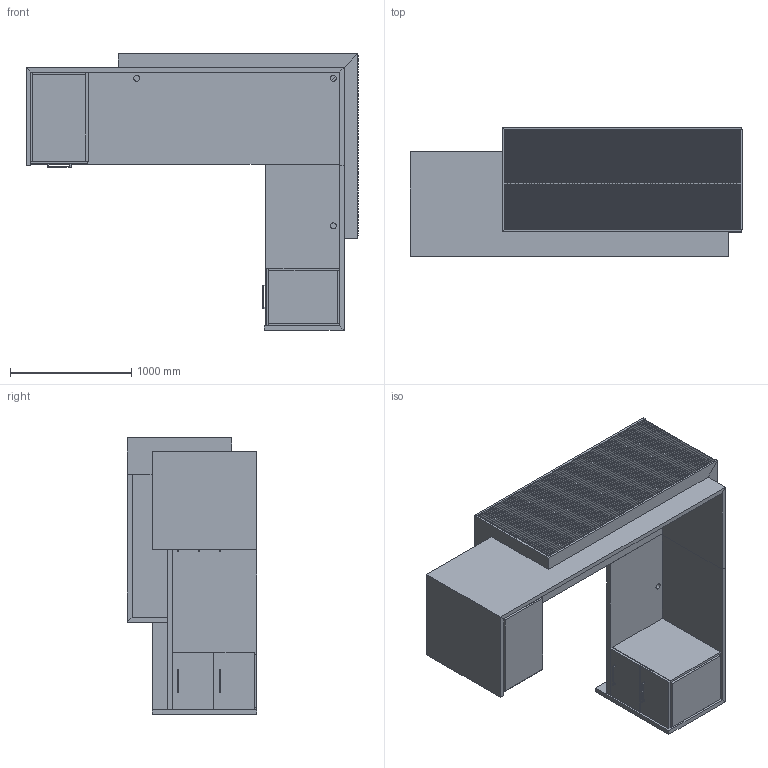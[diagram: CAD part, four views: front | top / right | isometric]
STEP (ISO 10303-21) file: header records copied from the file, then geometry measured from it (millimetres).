
FILE_DESCRIPTION(/* description */ ('','CAx-IF Rec.Pracs.---Representation and Presentation of Product Manufacturing Information (PMI)---4.0---2014-10-13'),/* implementation_level */ '2;1');
FILE_NAME(/* name */ 'RECEPTION_SALUTE 4.stp',/* time_stamp */ '2024-12-07T19:02:02-05:00',/* author */ ('mbowman'),/* organization */ (''),/* preprocessor_version */ 'ST-DEVELOPER v19.2',/* originating_system */ 'Autodesk Inventor 2023',/* authorisation */ '');
FILE_SCHEMA (('AP242_MANAGED_MODEL_BASED_3D_ENGINEERING_MIM_LF { 1 0 10303 442 1 1 4 }'));
Length unit declared in the file: inch
Products named in the file (7): SALUTE^ADMIN4 _L SHAPED BATTEN-SOLID ASSEMBLY; SALUTE^ADMIN4 _L SHAPED-PARTS SOLID; HAFELE 102.12.004-7_5 INCH; SALUTE^ADMIN 4_60x78 BATTEN L-SHAPED TRANS-SOLID ASSEMBLY; SALUTE^ADMIN 4_60x78 BATTEN L-SHAPED TRANS-PARTS SOLID; SALUTE^ADMIN 4_60x78 BATTEN L-SHAPED TRANS-78 FRONT BATTEN; SALUTE^ADMIN 4_60x78 BATTEN L-SHAPED TRANS-60 SIDE BATTEN
Assembly tree (10 placements, depth 3):
  SALUTE^ADMIN4 _L SHAPED BATTEN-SOLID ASSEMBLY
    SALUTE^ADMIN4 _L SHAPED-PARTS SOLID
    HAFELE 102.12.004-7_5 INCH  x5
    SALUTE^ADMIN 4_60x78 BATTEN L-SHAPED TRANS-SOLID ASSEMBLY
      SALUTE^ADMIN 4_60x78 BATTEN L-SHAPED TRANS-PARTS SOLID
      SALUTE^ADMIN 4_60x78 BATTEN L-SHAPED TRANS-78 FRONT BATTEN
      SALUTE^ADMIN 4_60x78 BATTEN L-SHAPED TRANS-60 SIDE BATTEN
Bounding box: 2743.2 x 1066.8 x 2286 mm (x, y, z)
Volume: 526163372.1 mm3; surface area: 43037851 mm2
Topology: 37 solids, 37 shells, 885 faces, 2431 edges, 1620 vertices
Faces by surface type: plane 882, cylinder 3
Full cylindrical faces by diameter (mm): 48.26 x3
Entity records: 28440 total; most frequent: CARTESIAN_POINT 5486, ORIENTED_EDGE 4670, DIRECTION 4107, EDGE_CURVE 2335, LINE 2329, VECTOR 2329, VERTEX_POINT 1556, AXIS2_PLACEMENT_3D 889
